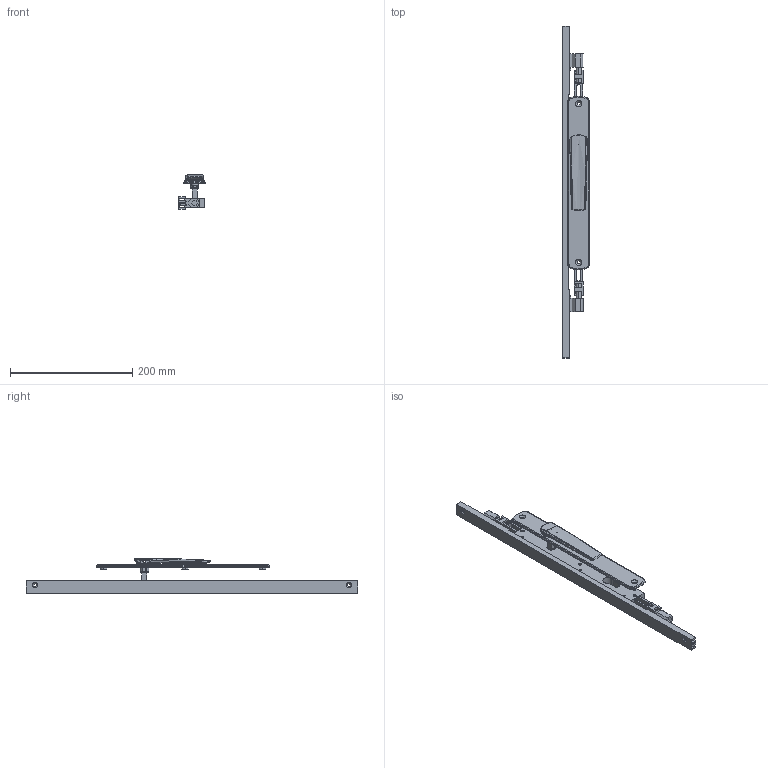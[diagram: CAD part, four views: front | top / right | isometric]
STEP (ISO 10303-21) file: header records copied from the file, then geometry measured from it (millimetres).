
FILE_DESCRIPTION (( 'STEP AP214' ), '1' );
FILE_NAME ('TPL-W-APC-608-L 28Oct2024.STEP', '2024-10-28T03:42:34', ( '' ), ( '' ), 'SwSTEP 2.0', 'SolidWorks 2023', '' );
FILE_SCHEMA (( 'AUTOMOTIVE_DESIGN' ));
Length unit declared in the file: millimetre
Products named in the file (18): Bolt.step; Copy of COV-115-C Cover C suit TPLGen2 standard range AU^TPL-W-APC-108 18Oct2024; TPL-W-APC-608-L 28Oct2024; Copy of LKC-583 Escutcheon plate unkeyed 285mm long zinc - simplified^Copy of TPGen2 handle non-keyed long zinc - simplified_TPL-W-APC-108 18Oct2024; Copy of TPLGen2 lock body keyed assembly^TPL-W-APC-108 18Oct2024_Bolts extended - right; Copy of LKC-531-A Rod TPLGen2 machined bolt end^TPL-W-APC-108 18Oct2024_LKC-531-A-M003; Adapter D - simplfied^TPL-W-APC-108 18Oct2024; Copy of TPLGen2 push rod - simplified^Copy of TPLGen2 lock body keyed assembly_TPL-W-APC-108 18Oct2024_Female thread M10; Copy of TPGen2 handle non-keyed long zinc - simplified^TPL-W-APC-108 18Oct2024_Vertical; Copy of LKC-585 Rotator body zinc^Copy of TPGen2 handle non-keyed long zinc - simplified_TPL-W-APC-108 18Oct2024; Copy of COV-115-B Cover B suit TPLGen2 standard range AU with hinge holes^TPL-W-APC-108 18Oct2024_2870mm; Copy of LKC-586 Spindle square 8mm with M4 hole^Copy of TPGen2 handle non-keyed long zinc - simplified_TPL-W-APC-108 18Oct2024_37mm; Copy of LKC-584 Pivot body zinc - simplified^Copy of TPGen2 handle non-keyed long zinc - simplified_TPL-W-APC-108 18Oct2024; Copy of TPLGen2 lock body keyed^Copy of TPLGen2 lock body keyed assembly_TPL-W-APC-108 18Oct2024_Right; Copy of COV-115-A Cover A suit TPLGen2 standard range AU with hinge holes^TPL-W-APC-108 18Oct2024_2870mm; Adapter C - simplfied^TPL-W-APC-108 18Oct2024; Bottom twinpoint transmission rod wood system^TPL-W-APC-108 18Oct2024_Standard Range 2891.7mm; Copy of LKC-505 Swing handle zinc - simplified^Copy of TPGen2 handle non-keyed long zinc - simplified_TPL-W-APC-108 18Oct2024
Assembly tree (15 placements, depth 3):
  Bolt.step
  TPL-W-APC-608-L 28Oct2024
    Copy of TPLGen2 lock body keyed assembly^TPL-W-APC-108 18Oct2024_Bolts extended - right
      Copy of TPLGen2 lock body keyed^Copy of TPLGen2 lock body keyed assembly_TPL-W-APC-108 18Oct2024_Right
      Copy of TPLGen2 push rod - simplified^Copy of TPLGen2 lock body keyed assembly_TPL-W-APC-108 18Oct2024_Female thread M10  x2
    Copy of TPGen2 handle non-keyed long zinc - simplified^TPL-W-APC-108 18Oct2024_Vertical
      Copy of LKC-583 Escutcheon plate unkeyed 285mm long zinc - simplified^Copy of TPGen2 handle non-keyed long zinc - simplified_TPL-W-APC-108 18Oct2024
      Copy of LKC-505 Swing handle zinc - simplified^Copy of TPGen2 handle non-keyed long zinc - simplified_TPL-W-APC-108 18Oct2024
      Copy of LKC-585 Rotator body zinc^Copy of TPGen2 handle non-keyed long zinc - simplified_TPL-W-APC-108 18Oct2024
      Copy of LKC-586 Spindle square 8mm with M4 hole^Copy of TPGen2 handle non-keyed long zinc - simplified_TPL-W-APC-108 18Oct2024_37mm
      Copy of LKC-584 Pivot body zinc - simplified^Copy of TPGen2 handle non-keyed long zinc - simplified_TPL-W-APC-108 18Oct2024
    Copy of COV-115-C Cover C suit TPLGen2 standard range AU^TPL-W-APC-108 18Oct2024
    Bottom twinpoint transmission rod wood system^TPL-W-APC-108 18Oct2024_Standard Range 2891.7mm
    Copy of LKC-531-A Rod TPLGen2 machined bolt end^TPL-W-APC-108 18Oct2024_LKC-531-A-M003
    Adapter D - simplfied^TPL-W-APC-108 18Oct2024
    Adapter C - simplfied^TPL-W-APC-108 18Oct2024
  Copy of COV-115-B Cover B suit TPLGen2 standard range AU with hinge holes^TPL-W-APC-108 18Oct2024_2870mm
  Copy of COV-115-A Cover A suit TPLGen2 standard range AU with hinge holes^TPL-W-APC-108 18Oct2024_2870mm
Bounding box: 43.5 x 544 x 57.06 mm (x, y, z)
Volume: 263830.9 mm3; surface area: 129092.8 mm2
Topology: 13 solids, 13 shells, 773 faces, 1872 edges, 1150 vertices
Faces by surface type: plane 269, cylinder 198, bspline 176, cone 70, torus 52, sphere 8
Entity records: 27851 total; most frequent: CARTESIAN_POINT 11289, ORIENTED_EDGE 3552, DIRECTION 3118, EDGE_CURVE 1776, AXIS2_PLACEMENT_3D 1189, VERTEX_POINT 1090, EDGE_LOOP 824, VECTOR 740
